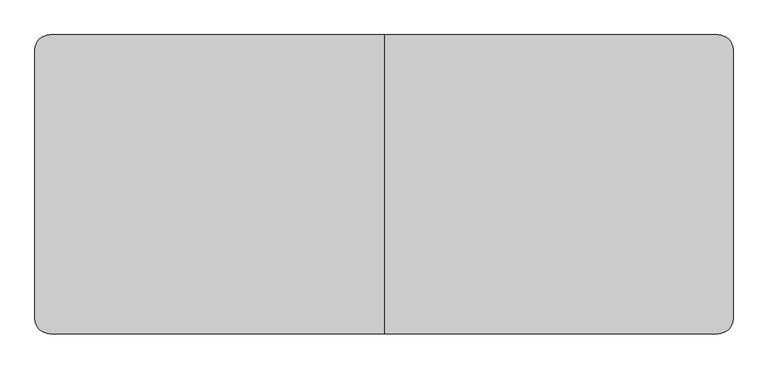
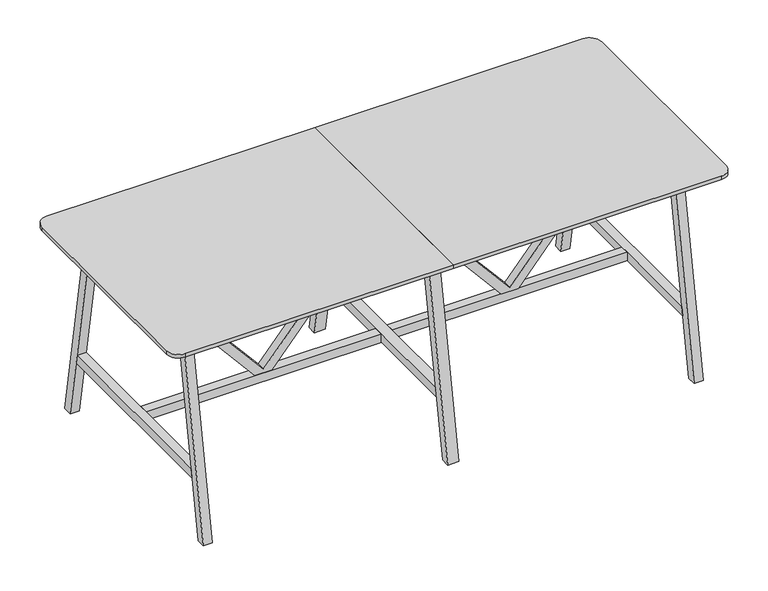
"""IFC4 building model written with IfcOpenShell, lengths in millimetres: furniture geometry, BDG_BossDesign_Tbls_AgentTables6Legs : AGE-HT-6L-2800-1200-3D."""

from ifc_helpers import new_model, si_unit, point, frame, frame_2d, origin, place, context, project, spatial, polyline, circle_curve, trimmed, segment, composite_curve, outline, extrude, source, transform, mapped, element, save


def furniture_975e87f2(model_context):
    return source(origin(), model_context, "Body", "SweptSolid", [
        extrude(outline(polyline([(345.0, 574.0823957), (345.0, 658.4176043), (992.0, 1205.0), (1032.0, 1205.0), (1032.0, 1185.0), (365.0, 616.25), (1032.0, 47.5), (1032.0, 27.5), (992.0, 27.5), (345.0, 574.0823957)])), frame((0.0, -22.5000305, 0.0), z_axis=(0.0, 1.0, 0.0), x_axis=(0.0, 0.0, 1.0)), (0.0, 0.0, 1.0), 45.000061),
        extrude(outline(polyline([(345.0, -574.0823957), (992.0, -27.5), (1032.0, -27.5), (1032.0, -47.5), (365.0, -616.25), (1032.0, -1185.0), (1032.0, -1205.0), (992.0, -1205.0), (345.0, -658.4176043), (345.0, -574.0823957)])), frame((0.0, -22.5000305, 0.0), z_axis=(0.0, 1.0, 0.0), x_axis=(0.0, 0.0, 1.0)), (0.0, 0.0, 1.0), 45.000061),
        extrude(outline(polyline([(600.0, 0.0), (554.9999949, 0.0), (385.5, 970.0), (430.5000051, 970.0), (600.0, 0.0)])), frame((-27.5, 0.0, 0.0), z_axis=(1.0, 0.0, 0.0), x_axis=(0.0, 1.0, 0.0)), (0.0, 0.0, 1.0), 55.0),
        extrude(outline(polyline([(-600.0, 0.0), (-430.5000051, 970.0), (-385.5, 970.0), (-554.9999949, 0.0), (-600.0, 0.0)])), frame((-27.5, 0.0, 0.0), z_axis=(1.0, 0.0, 0.0), x_axis=(0.0, 1.0, 0.0)), (0.0, 0.0, 1.0), 55.0),
        extrude(outline(polyline([(502.5773161, 300.0), (-502.5773161, 300.0), (-494.7139143, 345.0), (494.7139143, 345.0), (502.5773161, 300.0)])), frame((-27.5, 0.0, 0.0), z_axis=(1.0, 0.0, 0.0), x_axis=(0.0, 1.0, 0.0)), (0.0, 0.0, 1.0), 55.0),
        extrude(outline(composite_curve([segment(polyline([(0.0, 600.0), (0.0, -600.0), (-1340.0, -600.0)]), True, "CONTINUOUS"), segment(trimmed(circle_curve(frame_2d((-1340.0, -540.0)), 60.0), [point((-1340.0, -600.0))], [point((-1400.0, -540.0))], False, "CARTESIAN"), True, "CONTINUOUS"), segment(polyline([(-1400.0, -540.0), (-1400.0, 540.0)]), True, "CONTINUOUS"), segment(trimmed(circle_curve(frame_2d((-1340.0, 540.0)), 60.0), [point((-1400.0, 540.0))], [point((-1340.0, 600.0))], False, "CARTESIAN"), True, "CONTINUOUS"), segment(polyline([(-1340.0, 600.0), (0.0, 600.0)]), True, "CONTINUOUS")], self_intersect=False)), frame((0.0, 0.0, 1032.0), z_axis=(0.0, 0.0, 1.0), x_axis=(1.0, 0.0, 0.0)), (0.0, 0.0, 1.0), 18.0),
        extrude(outline(polyline([(-494.7139143, 345.0), (494.7139143, 345.0), (502.5773161, 300.0), (-502.5773161, 300.0), (-494.7139143, 345.0)])), frame((1205.0, 0.0, 0.0), z_axis=(1.0, 0.0, 0.0), x_axis=(0.0, 1.0, 0.0)), (0.0, 0.0, 1.0), 45.0),
        extrude(outline(polyline([(600.0, 0.0), (554.9999949, 0.0), (385.5, 970.0), (430.5000051, 970.0), (600.0, 0.0)])), frame((-1250.0, 0.0, 0.0), z_axis=(1.0, 0.0, 0.0), x_axis=(0.0, 1.0, 0.0)), (0.0, 0.0, 1.0), 45.0),
        extrude(outline(polyline([(-600.0, 0.0), (-430.5000051, 970.0), (-385.5, 970.0), (-554.9999949, 0.0), (-600.0, 0.0)])), frame((-1250.0, 0.0, 0.0), z_axis=(1.0, 0.0, 0.0), x_axis=(0.0, 1.0, 0.0)), (0.0, 0.0, 1.0), 45.0),
        extrude(outline(polyline([(-494.7139143, 345.0), (494.7139143, 345.0), (502.5773161, 300.0), (-502.5773161, 300.0), (-494.7139143, 345.0)])), frame((-1250.0, 0.0, 0.0), z_axis=(1.0, 0.0, 0.0), x_axis=(0.0, 1.0, 0.0)), (0.0, 0.0, 1.0), 45.0),
        extrude(outline(polyline([(-426.6006165, 944.973938), (-404.2770691, 1032.0), (-379.5, 1032.0), (-401.8235474, 944.973938), (-426.6006165, 944.973938)])), frame((-1205.0, 0.0, 0.0), z_axis=(1.0, 0.0, 0.0), x_axis=(0.0, 1.0, 0.0)), (0.0, 0.0, 1.0), 2410.0),
        extrude(outline(polyline([(426.6006165, 944.973938), (401.8235474, 944.973938), (379.5, 1032.0), (404.2770691, 1032.0), (426.6006165, 944.973938)])), frame((-1205.0, 0.0, 0.0), z_axis=(1.0, 0.0, 0.0), x_axis=(0.0, 1.0, 0.0)), (0.0, 0.0, 1.0), 2410.0),
        extrude(outline(polyline([(599.7999878, 0.0), (554.7999827, 0.0), (385.5, 970.0), (430.5000051, 970.0), (599.7999878, 0.0)])), frame((1205.0, 0.0, 0.0), z_axis=(1.0, 0.0, 0.0), x_axis=(0.0, 1.0, 0.0)), (0.0, 0.0, 1.0), 45.0),
        extrude(outline(polyline([(-599.7999878, 0.0), (-430.5000051, 970.0), (-385.5, 970.0), (-554.7999827, 0.0), (-599.7999878, 0.0)])), frame((1205.0, 0.0, 0.0), z_axis=(1.0, 0.0, 0.0), x_axis=(0.0, 1.0, 0.0)), (0.0, 0.0, 1.0), 45.0),
        extrude(outline(polyline([(-27.5, 22.5000305), (-27.5, -22.5000305), (-1205.0, -22.5000305), (-1205.0, 22.5000305), (-27.5, 22.5000305)])), frame((0.0, 0.0, 300.0), z_axis=(0.0, 0.0, 1.0), x_axis=(1.0, 0.0, 0.0)), (0.0, 0.0, 1.0), 45.0),
        extrude(outline(polyline([(27.5, -22.5000305), (27.5, 22.5000305), (1205.0, 22.5000305), (1205.0, -22.5000305), (27.5, -22.5000305)])), frame((0.0, 0.0, 300.0), z_axis=(0.0, 0.0, 1.0), x_axis=(1.0, 0.0, 0.0)), (0.0, 0.0, 1.0), 45.0),
        extrude(outline(composite_curve([segment(trimmed(circle_curve(frame_2d((1340.0, 540.0)), 60.0), [point((1340.0, 600.0))], [point((1400.0, 540.0))], False, "CARTESIAN"), True, "CONTINUOUS"), segment(polyline([(1400.0, 540.0), (1400.0, -540.0)]), True, "CONTINUOUS"), segment(trimmed(circle_curve(frame_2d((1340.0, -540.0)), 60.0), [point((1400.0, -540.0))], [point((1340.0, -600.0))], False, "CARTESIAN"), True, "CONTINUOUS"), segment(polyline([(1340.0, -600.0), (0.0, -600.0), (0.0, 600.0), (1340.0, 600.0)]), True, "CONTINUOUS")], self_intersect=False)), frame((0.0, 0.0, 1032.0), z_axis=(0.0, 0.0, 1.0), x_axis=(1.0, 0.0, 0.0)), (0.0, 0.0, 1.0), 18.0),
    ])


if __name__ == "__main__":
    model = new_model("IFC4")
    model_context = context("Model", 3, world=origin())
    ifc_project = project(units=[si_unit("LENGTHUNIT", "METRE", prefix="MILLI")], contexts=[model_context])
    site = spatial("IfcSite", under=ifc_project)
    building = spatial("IfcBuilding", under=site)
    placement = place(None, origin())
    furniture_shape = furniture_975e87f2(model_context)
    element("IfcFurniture", 1, ObjectType="BDG_BossDesign_Tbls_AgentTables6Legs : AGE-HT-6L-2800-1200-3D", at=placement, inside=building, context=model_context, shape_type="MappedRepresentation", body=[
        mapped(furniture_shape, transform((0.0, 0.0, 0.0), x_axis=(1.0, 0.0, 0.0), y_axis=(0.0, 1.0, 0.0), z_axis=(0.0, 0.0, 1.0))),
    ])
    save(model, "model.ifc")
